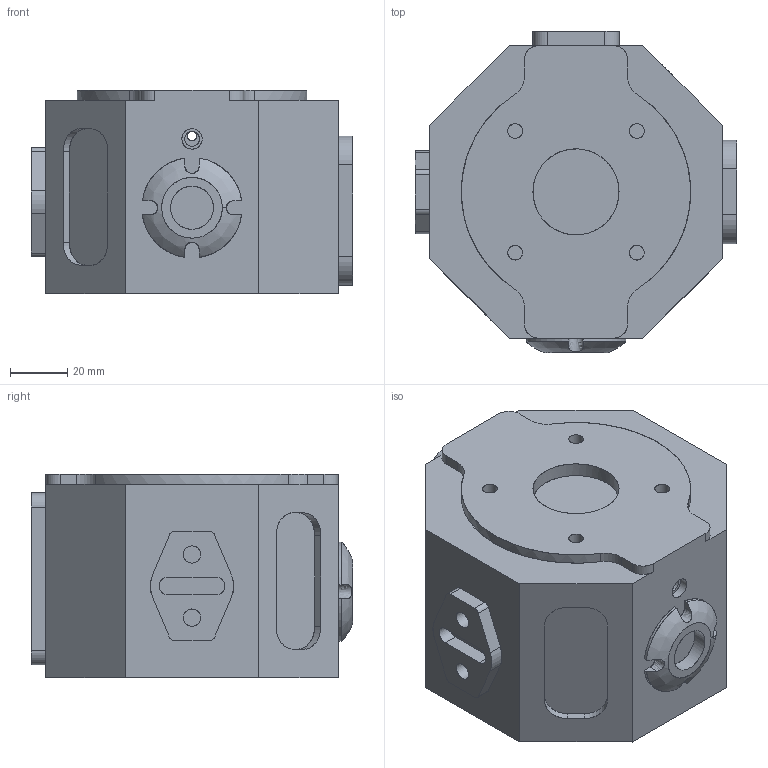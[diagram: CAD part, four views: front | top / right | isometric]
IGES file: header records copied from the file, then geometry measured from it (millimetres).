
Start section: Iges File created by ES
Global section: native system: ES; preprocessor: IGES.4B00; organization: JingDiao; units: millimetre
Bounding box: 112 x 112 x 71 mm (x, y, z)
Surface area: 67131.1 mm2 (no closed solid volume)
Topology: 0 solids, 0 shells, 202 faces, 1593 edges, 1568 vertices
Faces by surface type: bspline 202
